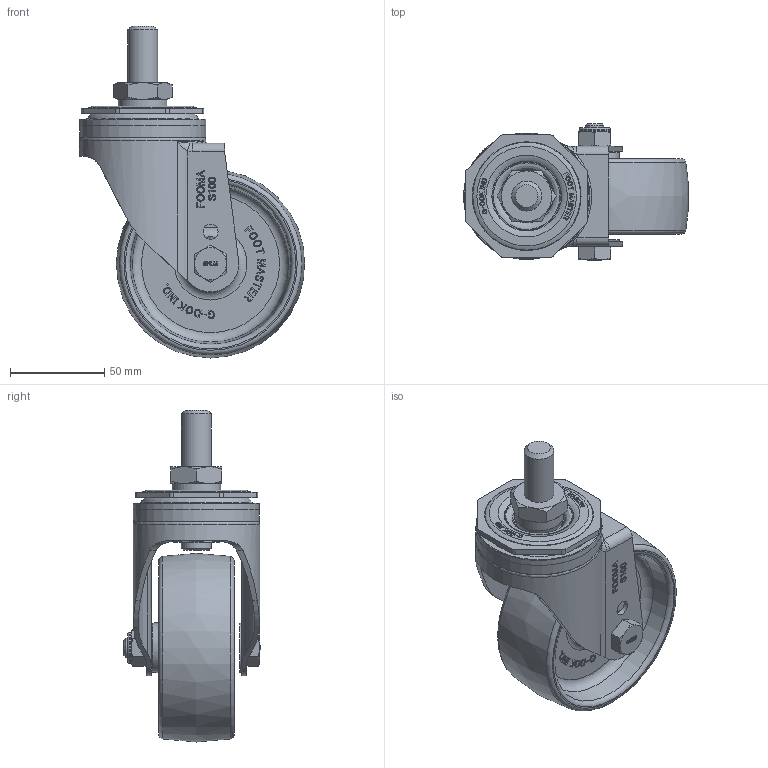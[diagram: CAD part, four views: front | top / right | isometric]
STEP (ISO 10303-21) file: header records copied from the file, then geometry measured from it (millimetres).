
FILE_DESCRIPTION(/* description */ (''),/* implementation_level */ '2;1');
FILE_NAME(/* name */ '\\192.168.10.38\지덕공유\1.기술연구소\2.연구개발 완료\완료_98.스테인레스캐스터 개발건_2023.10.26\제품설계\3D\홈페이지용\NYP\STP\SPLM-100-ASS-NYP.stp',/* time_stamp */ '2025-07-17T16:28:41+09:00',/* author */ ('admin'),/* organization */ ('지덕산업'),/* preprocessor_version */ 'ST-DEVELOPER v18.1',/* originating_system */ 'Autodesk Inventor 2021',/* authorisation */ '');
FILE_SCHEMA (('CONFIG_CONTROL_DESIGN'));
Length unit declared in the file: millimetre
Products named in the file (1): SPLM-100-ASS-NYP
Bounding box: 119.32 x 72.3 x 176 mm (x, y, z)
Volume: 267032.9 mm3; surface area: 74273 mm2
Topology: 1 solids, 1 shells, 1306 faces, 3531 edges, 2335 vertices
Faces by surface type: plane 664, bspline 464, cylinder 94, cone 52, torus 32
Full cylindrical faces by diameter (mm): 8 x2, 10 x1, 11 x1, 15.875 x1, 16 x2, 16.5 x1, 25.8 x1, 54 x1, 67 x1
Entity records: 42107 total; most frequent: CARTESIAN_POINT 12583, ORIENTED_EDGE 7054, DIRECTION 4406, EDGE_CURVE 3527, VERTEX_POINT 2335, LINE 2116, VECTOR 2116, EDGE_LOOP 1424
